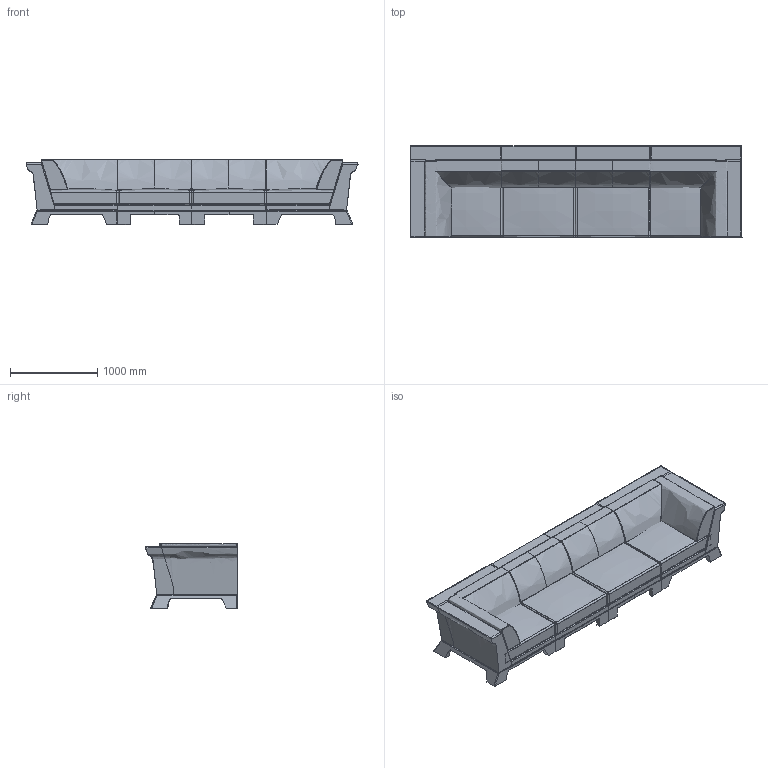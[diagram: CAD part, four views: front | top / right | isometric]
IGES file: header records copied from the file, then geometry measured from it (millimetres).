
Global section: file name: C:\Users\market02\Desktop\RYAN\PATT\FPATTCOM006_COMPOSITION 6_PATT\exportation\FPATTCOM002_COMPOSITION 6_PATT.igs; native system: Rhinoceros ( Dec 14 2021 ); preprocessor: Trout Lake IGES 012 Dec 14 2021; date: 220131.100206; units: millimetre
Bounding box: 3800.27 x 1061.19 x 745.28 mm (x, y, z)
Surface area: 35490732 mm2 (no closed solid volume)
Topology: 0 solids, 0 shells, 675 faces, 8276 edges, 8264 vertices
Faces by surface type: bspline 675
